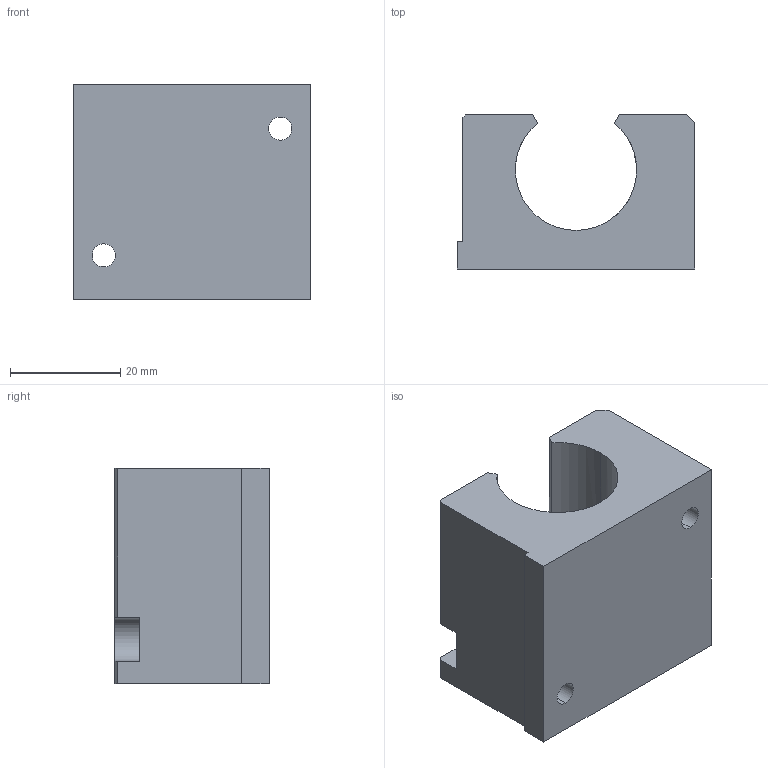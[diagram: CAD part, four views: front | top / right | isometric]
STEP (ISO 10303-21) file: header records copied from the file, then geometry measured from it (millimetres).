
FILE_DESCRIPTION (( 'STEP AP214' ), '1' );
FILE_NAME ('KGO37-12.step', '2020-03-04T13:20:38', ( '' ), ( '' ), 'SwSTEP 2.0', 'SolidWorks 2019', '' );
FILE_SCHEMA (( 'AUTOMOTIVE_DESIGN' ));
Length unit declared in the file: millimetre
Products named in the file (1): KGO37-12
Bounding box: 43 x 28 x 39 mm (x, y, z)
Volume: 29208.9 mm3; surface area: 9860.7 mm2
Topology: 1 solids, 1 shells, 42 faces, 116 edges, 76 vertices
Faces by surface type: plane 22, cylinder 17, cone 3
Entity records: 1577 total; most frequent: CARTESIAN_POINT 351, ORIENTED_EDGE 232, DIRECTION 225, EDGE_CURVE 116, VECTOR 77, LINE 77, VERTEX_POINT 76, AXIS2_PLACEMENT_3D 74
